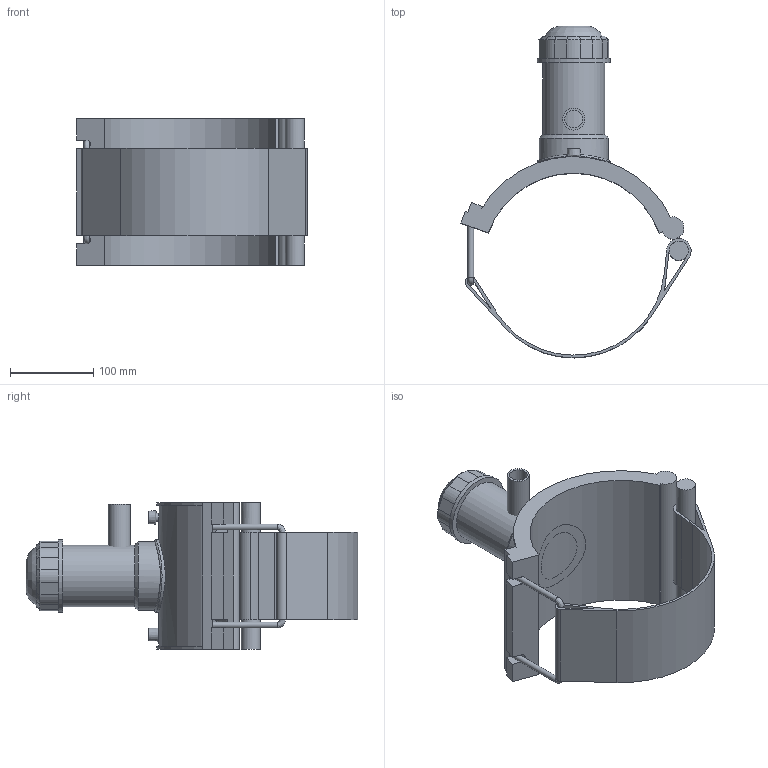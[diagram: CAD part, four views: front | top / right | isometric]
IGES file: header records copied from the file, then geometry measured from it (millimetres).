
Global section: file name: 5963BBP3080007.ipt; native system: Autodesk Inventor 2019; preprocessor: unknown; author: KIM; date: 20210830.101602; units: inch
Bounding box: 276.84 x 399.02 x 176.02 mm (x, y, z)
Volume: 1807151.8 mm3; surface area: 357513.7 mm2
Topology: 4 solids, 4 shells, 124 faces, 304 edges, 194 vertices
Faces by surface type: plane 69, cylinder 28, revolution 15, cone 11, bspline 1
Full cylindrical faces by diameter (mm): 4 x2, 6.998 x2, 23.048 x1, 26.6 x1, 74.358 x1, 83.106 x1, 87.48 x2
